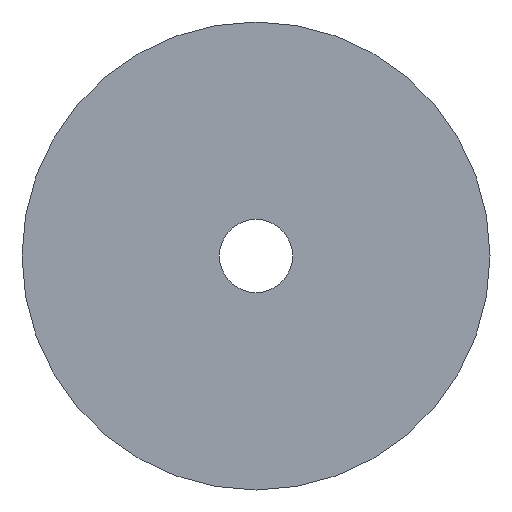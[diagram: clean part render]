
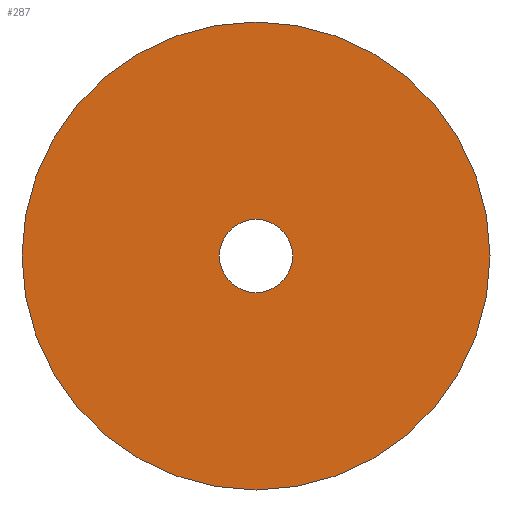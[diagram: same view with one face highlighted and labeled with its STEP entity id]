
A CAD part, front view. The second image highlights one B-rep face of the part: STEP entity #287.
In plain terms, the highlighted planar face has unit normal (0, -1, 0).
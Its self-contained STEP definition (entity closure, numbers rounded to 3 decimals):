
#8 = EDGE_CURVE ( 'NONE', #346, #13, #68, .T. ) ;
#13 = VERTEX_POINT ( 'NONE', #105 ) ;
#23 = ORIENTED_EDGE ( 'NONE', *, *, #351, .T. ) ;
#31 = FACE_BOUND ( 'NONE', #204, .T. ) ;
#32 = FACE_OUTER_BOUND ( 'NONE', #362, .T. ) ;
#33 = PLANE ( 'NONE',  #34 ) ;
#34 = AXIS2_PLACEMENT_3D ( 'NONE', #35, #36, #37 ) ;
#35 = CARTESIAN_POINT ( 'NONE',  ( -16., 0., 0. ) ) ;
#36 = DIRECTION ( 'NONE',  ( 0., -1., 0. ) ) ;
#37 = DIRECTION ( 'NONE',  ( 0., 0., -1. ) ) ;
#51 = CARTESIAN_POINT ( 'NONE',  ( 0., 0., 2.5 ) ) ;
#67 = CARTESIAN_POINT ( 'NONE',  ( 0., 0., -2.5 ) ) ;
#68 = CIRCLE ( 'NONE', #69, 16. ) ;
#69 = AXIS2_PLACEMENT_3D ( 'NONE', #70, #71, #72 ) ;
#70 = CARTESIAN_POINT ( 'NONE',  ( 0., 0., 0. ) ) ;
#71 = DIRECTION ( 'NONE',  ( 0., 1., 0. ) ) ;
#72 = DIRECTION ( 'NONE',  ( 0., 0., 1. ) ) ;
#80 = CIRCLE ( 'NONE', #81, 16. ) ;
#81 = AXIS2_PLACEMENT_3D ( 'NONE', #82, #83, #84 ) ;
#82 = CARTESIAN_POINT ( 'NONE',  ( 0., 0., 0. ) ) ;
#83 = DIRECTION ( 'NONE',  ( 0., 1., 0. ) ) ;
#84 = DIRECTION ( 'NONE',  ( 0., 0., 1. ) ) ;
#105 = CARTESIAN_POINT ( 'NONE',  ( 0., 0., -16. ) ) ;
#128 = CARTESIAN_POINT ( 'NONE',  ( 0., 0., 16. ) ) ;
#158 = CIRCLE ( 'NONE', #159, 2.5 ) ;
#159 = AXIS2_PLACEMENT_3D ( 'NONE', #160, #161, #162 ) ;
#160 = CARTESIAN_POINT ( 'NONE',  ( 0., 0., 0. ) ) ;
#161 = DIRECTION ( 'NONE',  ( 0., 1., 0. ) ) ;
#162 = DIRECTION ( 'NONE',  ( 0., 0., 1. ) ) ;
#167 = EDGE_CURVE ( 'NONE', #378, #333, #191, .T. ) ;
#191 = CIRCLE ( 'NONE', #192, 2.5 ) ;
#192 = AXIS2_PLACEMENT_3D ( 'NONE', #193, #194, #195 ) ;
#193 = CARTESIAN_POINT ( 'NONE',  ( 0., 0., 0. ) ) ;
#194 = DIRECTION ( 'NONE',  ( 0., 1., 0. ) ) ;
#195 = DIRECTION ( 'NONE',  ( 0., 0., 1. ) ) ;
#204 = EDGE_LOOP ( 'NONE', ( #223, #23 ) ) ;
#223 = ORIENTED_EDGE ( 'NONE', *, *, #167, .T. ) ;
#287 = ADVANCED_FACE ( 'NONE', ( #31, #32 ), #33, .T. ) ;
#331 = ORIENTED_EDGE ( 'NONE', *, *, #336, .F. ) ;
#332 = ORIENTED_EDGE ( 'NONE', *, *, #8, .F. ) ;
#333 = VERTEX_POINT ( 'NONE', #67 ) ;
#336 = EDGE_CURVE ( 'NONE', #13, #346, #80, .T. ) ;
#346 = VERTEX_POINT ( 'NONE', #128 ) ;
#351 = EDGE_CURVE ( 'NONE', #333, #378, #158, .T. ) ;
#362 = EDGE_LOOP ( 'NONE', ( #331, #332 ) ) ;
#378 = VERTEX_POINT ( 'NONE', #51 ) ;
